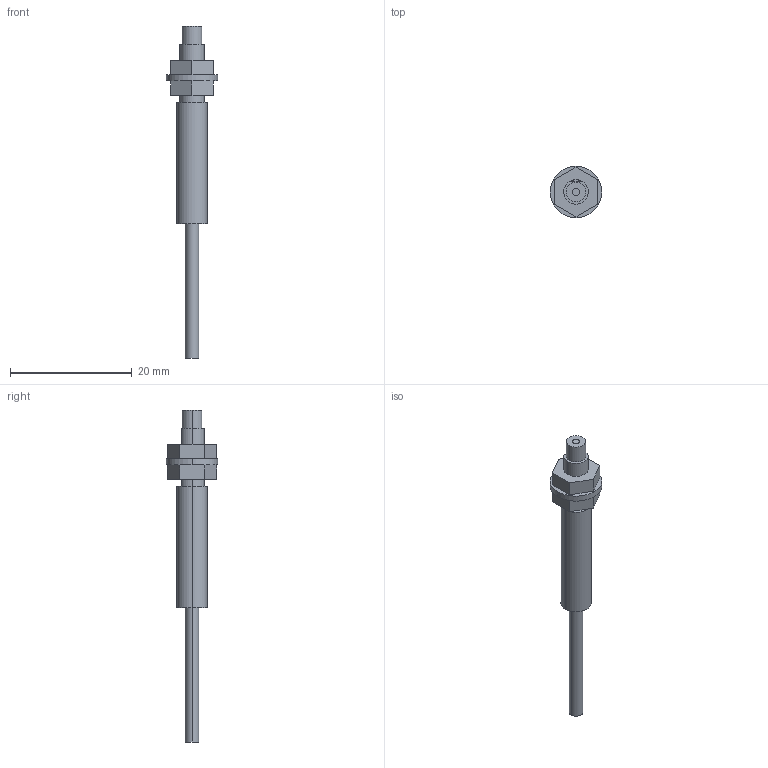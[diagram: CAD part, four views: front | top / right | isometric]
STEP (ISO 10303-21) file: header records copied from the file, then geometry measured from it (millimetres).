
FILE_DESCRIPTION (( 'STEP AP203' ), '1' );
FILE_NAME ('FT-P80.STEP', '2005-09-08T04:14:15', ( '' ), ( '' ), 'SwSTEP 2.0', 'SolidWorks 2004073', '' );
FILE_SCHEMA (( 'CONFIG_CONTROL_DESIGN' ));
Length unit declared in the file: millimetre
Products named in the file (1): FT-P80
Bounding box: 8.5 x 8.5 x 54.5 mm (x, y, z)
Volume: 803.6 mm3; surface area: 1078.4 mm2
Topology: 4 solids, 4 shells, 44 faces, 96 edges, 64 vertices
Faces by surface type: plane 25, cylinder 19
Entity records: 1301 total; most frequent: DIRECTION 224, CARTESIAN_POINT 205, ORIENTED_EDGE 192, EDGE_CURVE 96, AXIS2_PLACEMENT_3D 83, VERTEX_POINT 64, VECTOR 58, LINE 58
